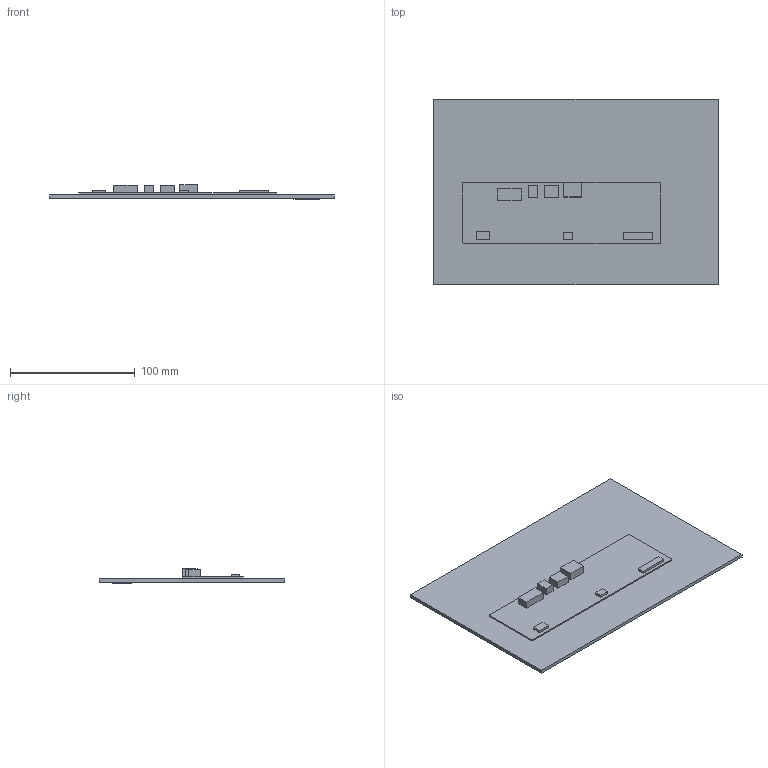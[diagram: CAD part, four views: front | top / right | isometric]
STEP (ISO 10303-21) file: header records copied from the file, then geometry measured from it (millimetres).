
FILE_DESCRIPTION(/* description */ (''),/* implementation_level */ '2;1');
FILE_NAME(/* name */ 'SDWb101YY37BN.stp',/* time_stamp */ '2024-11-07T10:09:55+08:00',/* author */ (''),/* organization */ (''),/* preprocessor_version */ 'ST-DEVELOPER v16',/* originating_system */ 'SIEMENS PLM Software NX 10.0',/* authorisation */ '');
FILE_SCHEMA (('AP203_CONFIGURATION_CONTROLLED_3D_DESIGN_OF_MECHANICAL_PARTS_AND_ASSEMBLIES_MIM_LF { 1 0 10303 403 2 1 2}'));
Length unit declared in the file: millimetre
Products named in the file (1): SDWb101YY37BN
Bounding box: 228.2 x 148.85 x 11.51 mm (x, y, z)
Volume: 106958.3 mm3; surface area: 148021.5 mm2
Topology: 11 solids, 11 shells, 87 faces, 195 edges, 130 vertices
Faces by surface type: plane 83, cylinder 4
Entity records: 3173 total; most frequent: CARTESIAN_POINT 629, ORIENTED_EDGE 390, DIRECTION 307, EDGE_CURVE 195, VERTEX_POINT 130, LINE 115, VECTOR 115, AXIS2_PLACEMENT_3D 96
